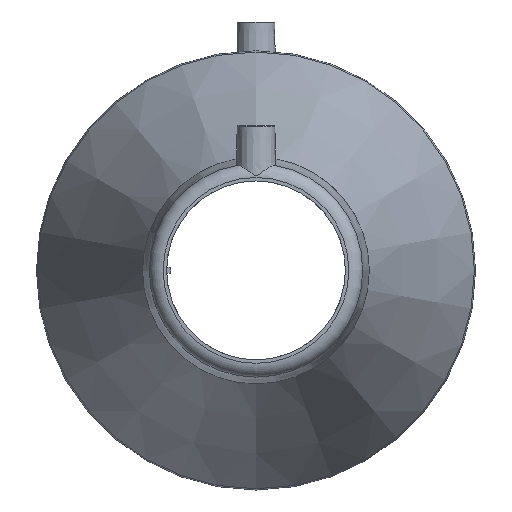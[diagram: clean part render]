
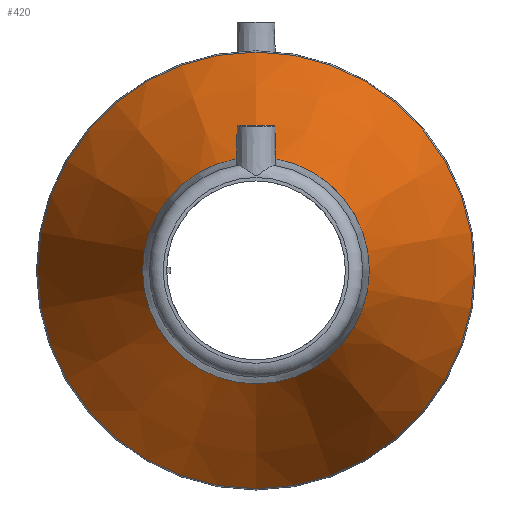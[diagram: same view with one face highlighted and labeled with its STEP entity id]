
A CAD part, left-side view. The second image highlights one B-rep face of the part: STEP entity #420.
In plain terms, the highlighted conical face has half-angle 24.029 degrees and reference radius 110.5 mm.
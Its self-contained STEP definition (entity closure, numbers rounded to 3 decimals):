
#77=CIRCLE('',#477,57.);
#78=CIRCLE('',#478,109.893);
#114=ORIENTED_EDGE('',*,*,#204,.F.);
#115=ORIENTED_EDGE('',*,*,#205,.T.);
#204=EDGE_CURVE('',#249,#249,#77,.T.);
#205=EDGE_CURVE('',#250,#250,#78,.T.);
#249=VERTEX_POINT('',#737);
#250=VERTEX_POINT('',#739);
#291=EDGE_LOOP('',(#114));
#292=EDGE_LOOP('',(#115));
#355=FACE_BOUND('',#291,.T.);
#356=FACE_BOUND('',#292,.T.);
#411=CONICAL_SURFACE('',#476,110.5,0.419);
#420=ADVANCED_FACE('',(#355,#356),#411,.T.);
#476=AXIS2_PLACEMENT_3D('',#735,#556,#557);
#477=AXIS2_PLACEMENT_3D('',#736,#558,#559);
#478=AXIS2_PLACEMENT_3D('',#738,#560,#561);
#556=DIRECTION('',(1.,0.,0.));
#557=DIRECTION('',(0.,0.,-1.));
#558=DIRECTION('',(-1.,0.,0.));
#559=DIRECTION('',(0.,0.,1.));
#560=DIRECTION('',(-1.,0.,0.));
#561=DIRECTION('',(0.,0.,1.));
#735=CARTESIAN_POINT('',(60.,0.,0.));
#736=CARTESIAN_POINT('',(-60.,0.,0.));
#737=CARTESIAN_POINT('',(-60.,0.,57.));
#738=CARTESIAN_POINT('',(58.639,0.,0.));
#739=CARTESIAN_POINT('',(58.639,0.,109.893));
